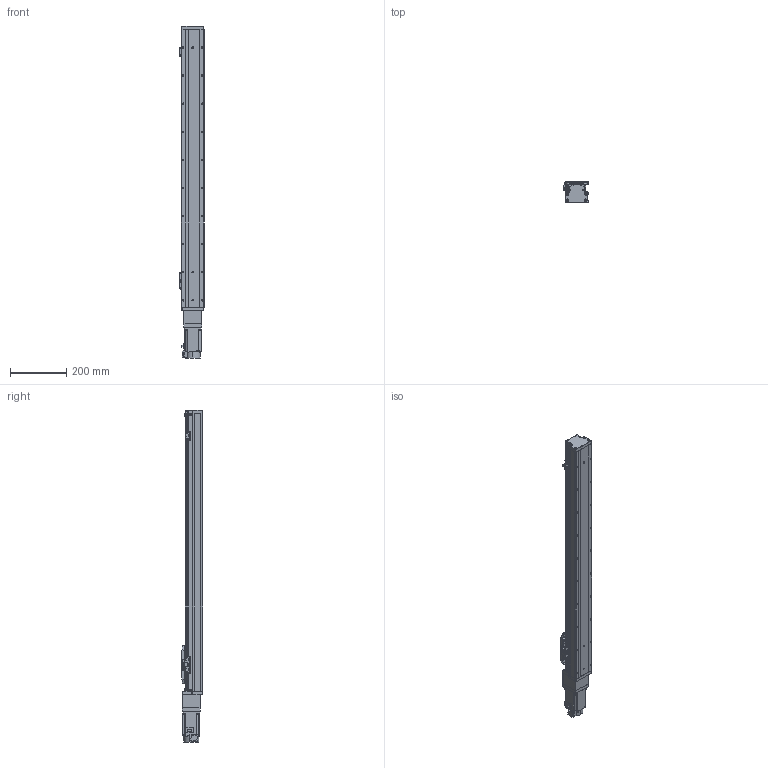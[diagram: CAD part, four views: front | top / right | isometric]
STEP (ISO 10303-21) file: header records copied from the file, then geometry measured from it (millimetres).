
FILE_DESCRIPTION (( 'STEP AP203' ), '1' );
FILE_NAME ('GTH8-800-BC-M20-C4.step', '2022-09-23T00:56:13', ( '微软用户' ), ( '微软中国' ), 'SwSTEP 2.0', 'SolidWorks 2020', '' );
FILE_SCHEMA (( 'CONFIG_CONTROL_DESIGN' ));
Length unit declared in the file: millimetre
Products named in the file (19): GBT96.1-2002 3×0.8; GTH80-022; GTH80-001_800; BTH-M3X5X6; GBT 70.1-M3℅6; GTH80-003; CTHA86-006-1_CTHA86-006-2; GBT 70.1-M4×16; GTH80-004; CTHA86-013; GTH80-028; CTHA86-027; GTH80-006; GTH50-024; hg-kn43j_-s100_; GTH80-013; GTH50-023; GTH8-800-BC-M20-C4; GBT 70.3-M3℅6
Assembly tree (60 placements, depth 2):
  GTH8-800-BC-M20-C4
    GTH80-001_800
    GTH80-003
    GTH80-004
    GTH80-006
    GTH80-013
    GBT 70.3-M3℅6  x6
    GTH80-022
    GBT 70.1-M3℅6  x14
    GBT 70.1-M4×16  x8
    GTH80-028  x2
    GTH50-024  x3
    GTH50-023  x3
    GBT96.1-2002 3×0.8  x6
    BTH-M3X5X6  x8
    CTHA86-006-1_CTHA86-006-2
    CTHA86-013
    CTHA86-027
    hg-kn43j_-s100_
Bounding box: 86.9 x 78 x 1182.7 mm (x, y, z)
Volume: 5094930.7 mm3; surface area: 514764.7 mm2
Topology: 62 solids, 62 shells, 2239 faces, 5152 edges, 3139 vertices
Faces by surface type: plane 1173, cylinder 609, cone 285, torus 162, sphere 8, bspline 2
Entity records: 39112 total; most frequent: CARTESIAN_POINT 6455, DIRECTION 6422, ORIENTED_EDGE 5894, EDGE_CURVE 2947, AXIS2_PLACEMENT_3D 2248, VECTOR 1926, LINE 1926, VERTEX_POINT 1852
